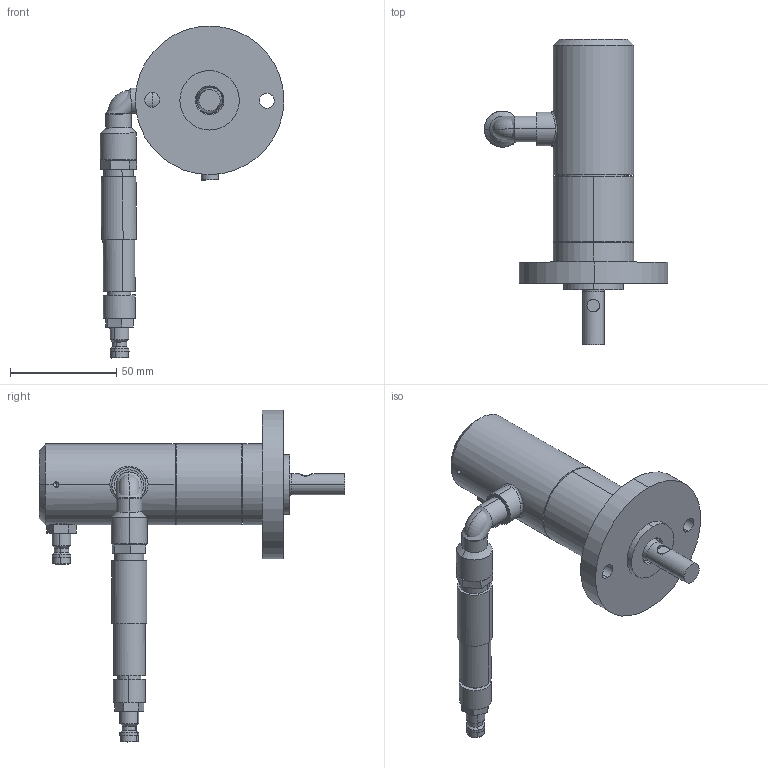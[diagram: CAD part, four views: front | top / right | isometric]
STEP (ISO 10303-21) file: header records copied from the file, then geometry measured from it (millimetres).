
FILE_DESCRIPTION (( 'STEP AP214' ), '1' );
FILE_NAME ('PMR10GA.STEP', '2019-03-15T08:17:57', ( '' ), ( '' ), 'SwSTEP 2.0', 'SolidWorks 2018', '' );
FILE_SCHEMA (( 'AUTOMOTIVE_DESIGN' ));
Length unit declared in the file: millimetre
Products named in the file (12): Flansch Serie PMR; Rändelschraube GA; Schnellkupplung; Ventil; Rändelschraube; Winkel; Kopie von Distanzring PLR 11^PMR10GA; Kopie von Deckel PLR 11^PMR10GA; Kopie von Stator PLR 11^PMR10GA; Kopie von Rotor PLR 11^PMR10GA; Kopie von Motorblock PLR 11^PMR10GA; PMR10GA
Assembly tree (12 placements, depth 3):
  PMR10GA
    Kopie von Motorblock PLR 11^PMR10GA
    Kopie von Rotor PLR 11^PMR10GA
    Kopie von Stator PLR 11^PMR10GA
    Kopie von Deckel PLR 11^PMR10GA
    Kopie von Distanzring PLR 11^PMR10GA
    Winkel
    Rändelschraube GA
      Rändelschraube
      Ventil
      Schnellkupplung
    Schnellkupplung
    Flansch Serie PMR
Bounding box: 86.56 x 144 x 156.33 mm (x, y, z)
Volume: 185852.2 mm3; surface area: 68631.6 mm2
Topology: 11 solids, 11 shells, 271 faces, 568 edges, 358 vertices
Faces by surface type: cylinder 140, plane 87, cone 32, torus 10, bspline 2
Entity records: 7916 total; most frequent: CARTESIAN_POINT 1850, DIRECTION 1258, ORIENTED_EDGE 992, AXIS2_PLACEMENT_3D 534, EDGE_CURVE 496, VERTEX_POINT 316, EDGE_LOOP 296, CIRCLE 280
